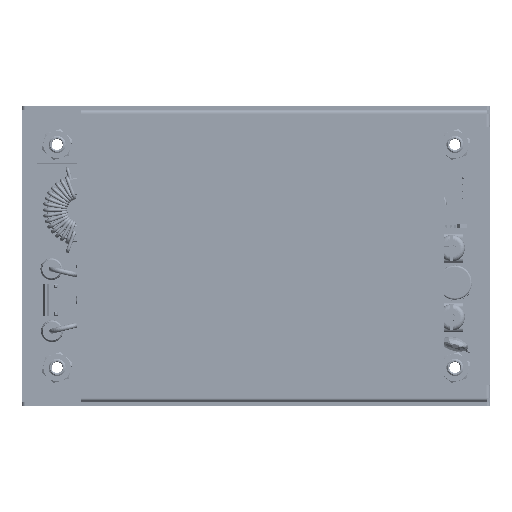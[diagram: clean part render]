
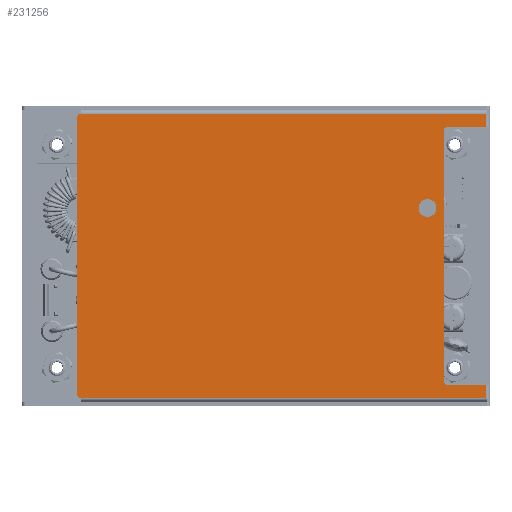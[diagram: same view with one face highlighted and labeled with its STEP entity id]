
A CAD part, top view. The second image highlights one B-rep face of the part: STEP entity #231256.
In plain terms, the highlighted planar face has unit normal (0, 0, 1).
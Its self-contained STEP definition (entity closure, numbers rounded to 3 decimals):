
#572 = CARTESIAN_POINT ( 'NONE',  ( 69.227, 29.402, 34.9 ) ) ;
#1066 = DIRECTION ( 'NONE',  ( 0., -1., 0. ) ) ;
#2841 = CIRCLE ( 'NONE', #135496, 2.6 ) ;
#3500 = CARTESIAN_POINT ( 'NONE',  ( 57.827, 29.402, 34.9 ) ) ;
#8138 = EDGE_CURVE ( 'NONE', #77814, #130244, #202859, .T. ) ;
#9771 = CARTESIAN_POINT ( 'NONE',  ( 56.827, 28.402, 34.9 ) ) ;
#11224 = LINE ( 'NONE', #83592, #14667 ) ;
#11721 = VERTEX_POINT ( 'NONE', #572 ) ;
#13804 = DIRECTION ( 'NONE',  ( 0., -1., 0. ) ) ;
#13941 = VECTOR ( 'NONE', #19308, 1000. ) ;
#14667 = VECTOR ( 'NONE', #155928, 1000. ) ;
#16362 = CARTESIAN_POINT ( 'NONE',  ( -48.673, 32.302, 34.9 ) ) ;
#16740 = CARTESIAN_POINT ( 'NONE',  ( 69.227, -45.398, 34.9 ) ) ;
#17477 = LINE ( 'NONE', #89827, #190618 ) ;
#19308 = DIRECTION ( 'NONE',  ( -1., 0., 0. ) ) ;
#24576 = CARTESIAN_POINT ( 'NONE',  ( -49.673, 32.302, 34.9 ) ) ;
#27523 = ORIENTED_EDGE ( 'NONE', *, *, #170409, .F. ) ;
#29358 = VECTOR ( 'NONE', #211956, 1000. ) ;
#31036 = DIRECTION ( 'NONE',  ( 0., 0., 1. ) ) ;
#32419 = EDGE_CURVE ( 'NONE', #220475, #137416, #45256, .T. ) ;
#38184 = CARTESIAN_POINT ( 'NONE',  ( 52.177, 3.302, 34.9 ) ) ;
#39659 = DIRECTION ( 'NONE',  ( 0., -1., 0. ) ) ;
#40389 = CARTESIAN_POINT ( 'NONE',  ( 69.327, 33.302, 34.9 ) ) ;
#42709 = CARTESIAN_POINT ( 'NONE',  ( 69.327, 29.402, 34.9 ) ) ;
#42841 = CIRCLE ( 'NONE', #175403, 1. ) ;
#45256 = LINE ( 'NONE', #117584, #59419 ) ;
#48894 = FACE_OUTER_BOUND ( 'NONE', #190587, .T. ) ;
#49815 = CIRCLE ( 'NONE', #182402, 1. ) ;
#51943 = DIRECTION ( 'NONE',  ( 0., 0., -1. ) ) ;
#57606 = AXIS2_PLACEMENT_3D ( 'NONE', #193582, #31036, #103367 ) ;
#59419 = VECTOR ( 'NONE', #189951, 1000. ) ;
#60563 = AXIS2_PLACEMENT_3D ( 'NONE', #16362, #88723, #161089 ) ;
#62877 = EDGE_CURVE ( 'NONE', #157939, #124617, #2841, .T. ) ;
#63077 = DIRECTION ( 'NONE',  ( 0., 0., 1. ) ) ;
#63548 = ORIENTED_EDGE ( 'NONE', *, *, #131969, .F. ) ;
#63564 = EDGE_CURVE ( 'NONE', #184076, #218643, #222878, .T. ) ;
#66682 = EDGE_LOOP ( 'NONE', ( #27523, #86716 ) ) ;
#66712 = CARTESIAN_POINT ( 'NONE',  ( 56.827, 29.402, 34.9 ) ) ;
#67228 = LINE ( 'NONE', #139596, #29358 ) ;
#68293 = CARTESIAN_POINT ( 'NONE',  ( -49.673, -48.298, 34.9 ) ) ;
#70982 = EDGE_CURVE ( 'NONE', #130244, #141970, #162788, .T. ) ;
#73468 = EDGE_CURVE ( 'NONE', #11721, #218643, #205199, .T. ) ;
#77814 = VERTEX_POINT ( 'NONE', #210326 ) ;
#78472 = EDGE_CURVE ( 'NONE', #147550, #203804, #42841, .T. ) ;
#83592 = CARTESIAN_POINT ( 'NONE',  ( 69.327, -45.398, 34.9 ) ) ;
#86716 = ORIENTED_EDGE ( 'NONE', *, *, #62877, .F. ) ;
#87318 = CARTESIAN_POINT ( 'NONE',  ( -48.673, 33.302, 34.9 ) ) ;
#88723 = DIRECTION ( 'NONE',  ( 0., 0., 1. ) ) ;
#89827 = CARTESIAN_POINT ( 'NONE',  ( 69.227, 29.402, 34.9 ) ) ;
#91235 = CARTESIAN_POINT ( 'NONE',  ( 57.827, -44.398, 34.9 ) ) ;
#93358 = ORIENTED_EDGE ( 'NONE', *, *, #63564, .T. ) ;
#97616 = VECTOR ( 'NONE', #112732, 1000. ) ;
#100845 = ORIENTED_EDGE ( 'NONE', *, *, #8138, .T. ) ;
#101818 = AXIS2_PLACEMENT_3D ( 'NONE', #225608, #63077, #135430 ) ;
#103367 = DIRECTION ( 'NONE',  ( 0., -1., 0. ) ) ;
#103935 = CARTESIAN_POINT ( 'NONE',  ( -48.673, -48.298, 34.9 ) ) ;
#106742 = CARTESIAN_POINT ( 'NONE',  ( -48.673, -49.298, 34.9 ) ) ;
#108002 = ORIENTED_EDGE ( 'NONE', *, *, #32419, .T. ) ;
#108924 = ORIENTED_EDGE ( 'NONE', *, *, #78472, .T. ) ;
#109478 = LINE ( 'NONE', #181882, #13941 ) ;
#112732 = DIRECTION ( 'NONE',  ( -1., 0., 0. ) ) ;
#115037 = DIRECTION ( 'NONE',  ( -1., 0., 0. ) ) ;
#117584 = CARTESIAN_POINT ( 'NONE',  ( 69.227, -49.298, 34.9 ) ) ;
#119235 = ORIENTED_EDGE ( 'NONE', *, *, #184156, .F. ) ;
#120542 = AXIS2_PLACEMENT_3D ( 'NONE', #159855, #51943, #124287 ) ;
#121239 = PLANE ( 'NONE',  #57606 ) ;
#124287 = DIRECTION ( 'NONE',  ( 0., -1., 0. ) ) ;
#124617 = VERTEX_POINT ( 'NONE', #38184 ) ;
#128179 = ORIENTED_EDGE ( 'NONE', *, *, #207441, .T. ) ;
#129826 = CARTESIAN_POINT ( 'NONE',  ( 52.177, 5.902, 34.9 ) ) ;
#130244 = VERTEX_POINT ( 'NONE', #87318 ) ;
#131969 = EDGE_CURVE ( 'NONE', #147550, #137416, #11224, .T. ) ;
#135430 = DIRECTION ( 'NONE',  ( 0., -1., 0. ) ) ;
#135496 = AXIS2_PLACEMENT_3D ( 'NONE', #129826, #202150, #39659 ) ;
#137416 = VERTEX_POINT ( 'NONE', #16740 ) ;
#139081 = DIRECTION ( 'NONE',  ( 0., -1., 0. ) ) ;
#139596 = CARTESIAN_POINT ( 'NONE',  ( -49.673, 33.302, 34.9 ) ) ;
#141970 = VERTEX_POINT ( 'NONE', #24576 ) ;
#147550 = VERTEX_POINT ( 'NONE', #166593 ) ;
#155928 = DIRECTION ( 'NONE',  ( 1., 0., 0. ) ) ;
#156789 = FACE_BOUND ( 'NONE', #66682, .T. ) ;
#157939 = VERTEX_POINT ( 'NONE', #219288 ) ;
#159855 = CARTESIAN_POINT ( 'NONE',  ( 57.827, 28.402, 34.9 ) ) ;
#161089 = DIRECTION ( 'NONE',  ( 0., -1., 0. ) ) ;
#162193 = DIRECTION ( 'NONE',  ( 0., 1., 0. ) ) ;
#162582 = ORIENTED_EDGE ( 'NONE', *, *, #230638, .T. ) ;
#162788 = CIRCLE ( 'NONE', #60563, 1. ) ;
#163602 = DIRECTION ( 'NONE',  ( 0., 0., -1. ) ) ;
#164906 = ORIENTED_EDGE ( 'NONE', *, *, #70982, .T. ) ;
#166593 = CARTESIAN_POINT ( 'NONE',  ( 57.827, -45.398, 34.9 ) ) ;
#170409 = EDGE_CURVE ( 'NONE', #124617, #157939, #204146, .T. ) ;
#174637 = VECTOR ( 'NONE', #139081, 1000. ) ;
#175113 = ORIENTED_EDGE ( 'NONE', *, *, #211510, .F. ) ;
#175403 = AXIS2_PLACEMENT_3D ( 'NONE', #91235, #163602, #1066 ) ;
#176350 = DIRECTION ( 'NONE',  ( 0., 0., 1. ) ) ;
#178135 = VERTEX_POINT ( 'NONE', #106742 ) ;
#178941 = VERTEX_POINT ( 'NONE', #68293 ) ;
#179902 = ORIENTED_EDGE ( 'NONE', *, *, #73468, .F. ) ;
#181882 = CARTESIAN_POINT ( 'NONE',  ( 69.327, -49.298, 34.9 ) ) ;
#182402 = AXIS2_PLACEMENT_3D ( 'NONE', #103935, #176350, #13804 ) ;
#184076 = VERTEX_POINT ( 'NONE', #9771 ) ;
#184156 = EDGE_CURVE ( 'NONE', #184076, #203804, #229239, .T. ) ;
#189951 = DIRECTION ( 'NONE',  ( 0., 1., 0. ) ) ;
#190337 = CARTESIAN_POINT ( 'NONE',  ( 56.827, -44.398, 34.9 ) ) ;
#190587 = EDGE_LOOP ( 'NONE', ( #100845, #164906, #219397, #162582, #175113, #108002, #63548, #108924, #119235, #93358, #179902, #128179 ) ) ;
#190618 = VECTOR ( 'NONE', #162193, 1000. ) ;
#193582 = CARTESIAN_POINT ( 'NONE',  ( 69.327, -50.398, 34.9 ) ) ;
#202150 = DIRECTION ( 'NONE',  ( 0., 0., 1. ) ) ;
#202859 = LINE ( 'NONE', #40389, #97616 ) ;
#203804 = VERTEX_POINT ( 'NONE', #190337 ) ;
#204146 = CIRCLE ( 'NONE', #101818, 2.6 ) ;
#205199 = LINE ( 'NONE', #42709, #231403 ) ;
#207441 = EDGE_CURVE ( 'NONE', #11721, #77814, #17477, .T. ) ;
#210326 = CARTESIAN_POINT ( 'NONE',  ( 69.227, 33.302, 34.9 ) ) ;
#211510 = EDGE_CURVE ( 'NONE', #220475, #178135, #109478, .T. ) ;
#211956 = DIRECTION ( 'NONE',  ( 0., -1., 0. ) ) ;
#213855 = EDGE_CURVE ( 'NONE', #141970, #178941, #67228, .T. ) ;
#218643 = VERTEX_POINT ( 'NONE', #3500 ) ;
#219288 = CARTESIAN_POINT ( 'NONE',  ( 52.177, 8.502, 34.9 ) ) ;
#219397 = ORIENTED_EDGE ( 'NONE', *, *, #213855, .T. ) ;
#220111 = CARTESIAN_POINT ( 'NONE',  ( 69.227, -49.298, 34.9 ) ) ;
#220475 = VERTEX_POINT ( 'NONE', #220111 ) ;
#222878 = CIRCLE ( 'NONE', #120542, 1. ) ;
#225608 = CARTESIAN_POINT ( 'NONE',  ( 52.177, 5.902, 34.9 ) ) ;
#229239 = LINE ( 'NONE', #66712, #174637 ) ;
#230638 = EDGE_CURVE ( 'NONE', #178941, #178135, #49815, .T. ) ;
#231256 = ADVANCED_FACE ( 'NONE', ( #156789, #48894 ), #121239, .T. ) ;
#231403 = VECTOR ( 'NONE', #115037, 1000. ) ;
